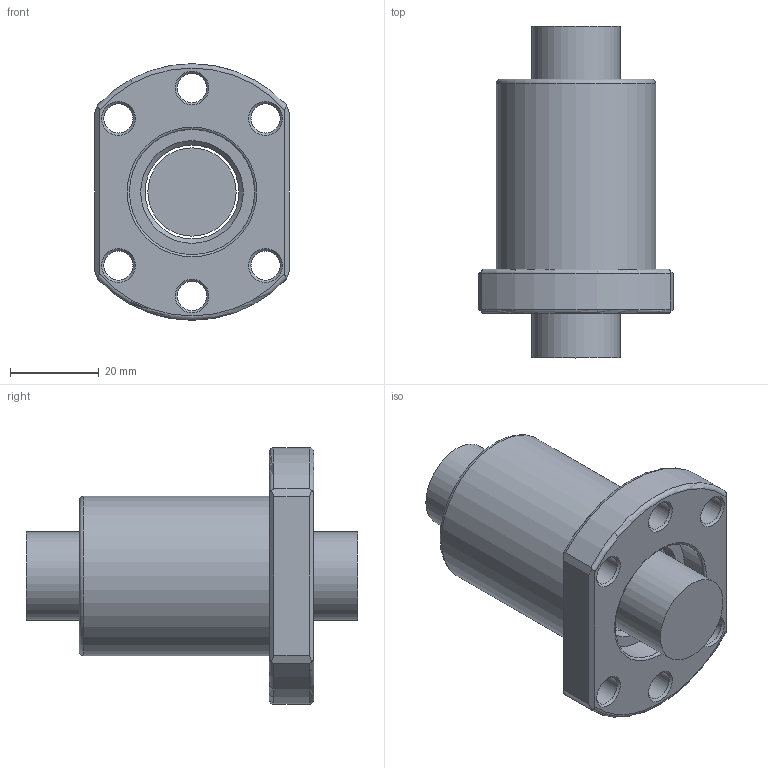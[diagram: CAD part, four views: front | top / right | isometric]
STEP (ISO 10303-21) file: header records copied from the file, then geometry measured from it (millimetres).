
FILE_DESCRIPTION(/* description */ (''),/* implementation_level */ '2;1');
FILE_NAME(/* name */ '2005.prt.step',/* time_stamp */ '2008-12-05T16:31:36+08:00',/* author */ (''),/* organization */ (''),/* preprocessor_version */ 'ST-DEVELOPER v11',/* originating_system */ 'SIEMENS UGS NX 6.0',/* authorisation */ '');
FILE_SCHEMA (('AUTOMOTIVE_DESIGN { 1 0 10303 214 1 1 1 1 }'));
Length unit declared in the file: millimetre
Products named in the file (1): 2005
Bounding box: 44 x 75 x 58 mm (x, y, z)
Volume: 65396.7 mm3; surface area: 20037.8 mm2
Topology: 2 solids, 2 shells, 51 faces, 118 edges, 74 vertices
Faces by surface type: plane 17, cone 14, cylinder 13, torus 7
Full cylindrical faces by diameter (mm): 6.6 x6, 19.95 x1, 21.2 x1, 28.3 x2, 36 x1
Entity records: 1546 total; most frequent: CARTESIAN_POINT 450, DIRECTION 222, ORIENTED_EDGE 174, AXIS2_PLACEMENT_3D 99, EDGE_LOOP 96, EDGE_CURVE 87, FACE_BOUND 78, VERTEX_POINT 71
